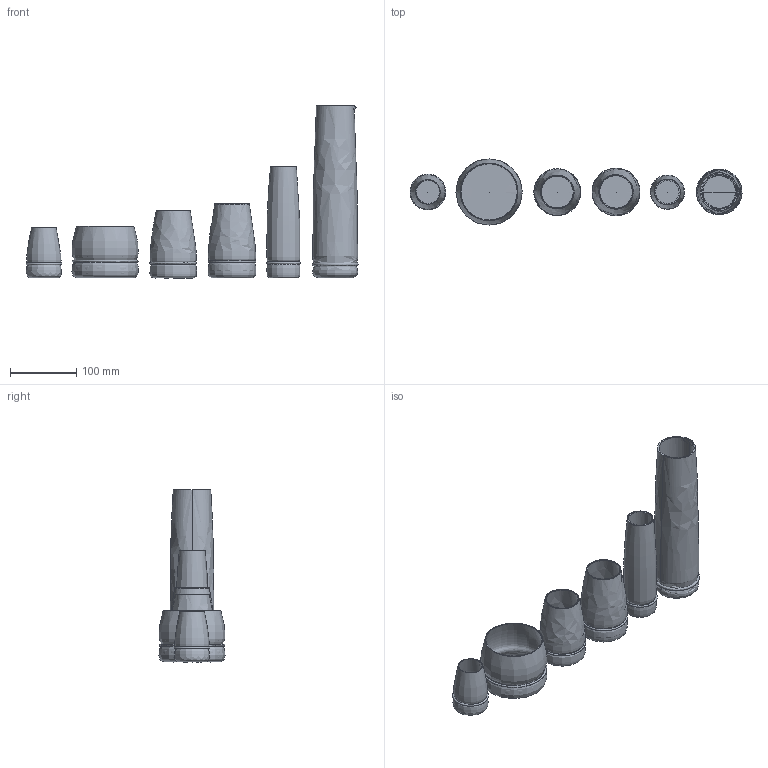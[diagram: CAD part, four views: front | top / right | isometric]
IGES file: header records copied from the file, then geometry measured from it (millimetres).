
Global section: file name: C:\Users\utente\Desktop\3d sito\OVIO\OVIO.igs; native system: Rhinoceros ( Mar  9 2011 ); preprocessor: Trout Lake IGES 012 Mar  9 2011; date: 170531.093408; units: millimetre
Bounding box: 502.17 x 100.23 x 260.59 mm (x, y, z)
Surface area: 698455.3 mm2 (no closed solid volume)
Topology: 0 solids, 0 shells, 87 faces, 788 edges, 796 vertices
Faces by surface type: bspline 87
